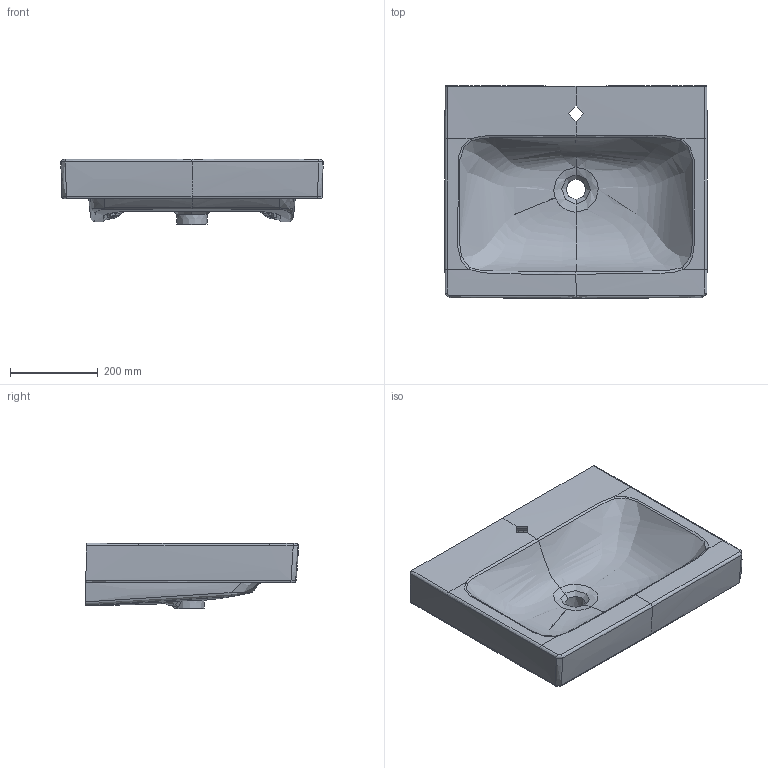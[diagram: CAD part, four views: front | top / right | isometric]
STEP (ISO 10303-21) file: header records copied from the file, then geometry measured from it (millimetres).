
FILE_DESCRIPTION(/* description */ (''),/* implementation_level */ '2;1');
FILE_NAME(/* name */ 'C:\Planerdaten\Export PLA\124060000\stp\124060000.stp',/* time_stamp */ '2020-04-02T16:18:07+02:00',/* author */ ('JANAN'),/* organization */ (''),/* preprocessor_version */ 'ST-DEVELOPER v16.13',/* originating_system */ 'Autodesk Inventor 2018',/* authorisation */ '');
FILE_SCHEMA (('AUTOMOTIVE_DESIGN { 1 0 10303 214 3 1 1 }'));
Products named in the file (1): WT Ge+iCn B60 m/ÜLF m/HLo
Bounding box: 599.57 x 486.92 x 150.34 mm (x, y, z)
Volume: 14908873.8 mm3; surface area: 991695.9 mm2
Topology: 1 solids, 1 shells, 292 faces, 726 edges, 437 vertices
Faces by surface type: bspline 226, plane 34, cylinder 28, sphere 2, cone 1, torus 1
Full cylindrical faces by diameter (mm): 22 x1, 47 x1
Entity records: 58665 total; most frequent: CARTESIAN_POINT 52932, ORIENTED_EDGE 1442, EDGE_CURVE 721, DIRECTION 677, VERTEX_POINT 435, B_SPLINE_CURVE_WITH_KNOTS 348, EDGE_LOOP 300, STYLED_ITEM 293
